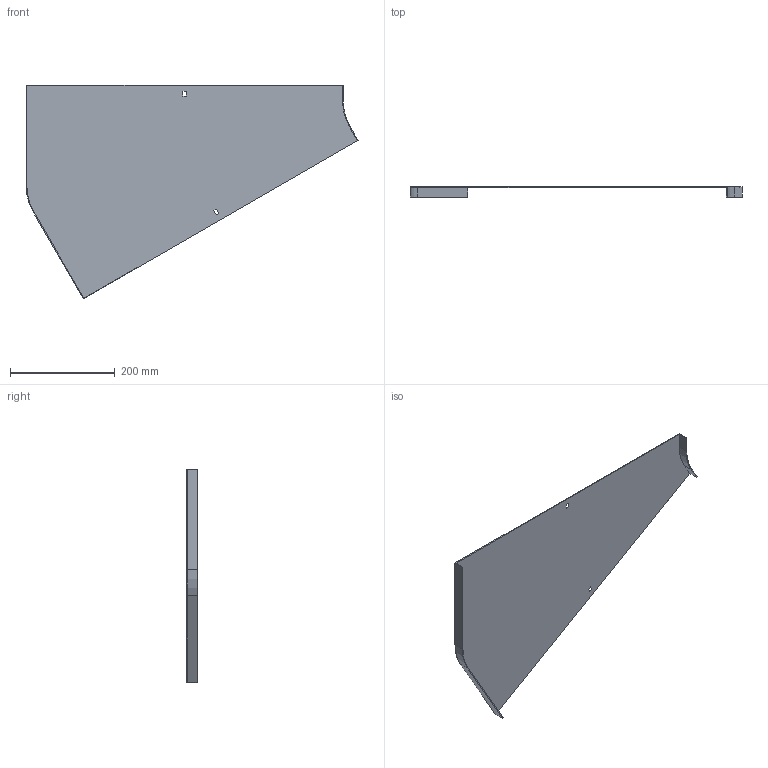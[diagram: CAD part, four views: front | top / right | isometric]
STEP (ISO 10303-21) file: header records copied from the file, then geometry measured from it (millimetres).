
FILE_DESCRIPTION (( 'STEP AP214' ), '1' );
FILE_NAME ('12G1P600.step', '2025-02-21T12:45:38', ( '' ), ( '' ), 'SwSTEP 2.0', 'SolidWorks 2023', '' );
FILE_SCHEMA (( 'AUTOMOTIVE_DESIGN' ));
Length unit declared in the file: millimetre
Products named in the file (1): 12G1P600
Bounding box: 635.2 x 20 x 408.73 mm (x, y, z)
Volume: 265817.2 mm3; surface area: 357270.5 mm2
Topology: 1 solids, 1 shells, 26 faces, 72 edges, 48 vertices
Faces by surface type: plane 22, cylinder 4
Entity records: 855 total; most frequent: CARTESIAN_POINT 147, ORIENTED_EDGE 144, DIRECTION 134, EDGE_CURVE 72, LINE 64, VECTOR 64, VERTEX_POINT 48, AXIS2_PLACEMENT_3D 35
